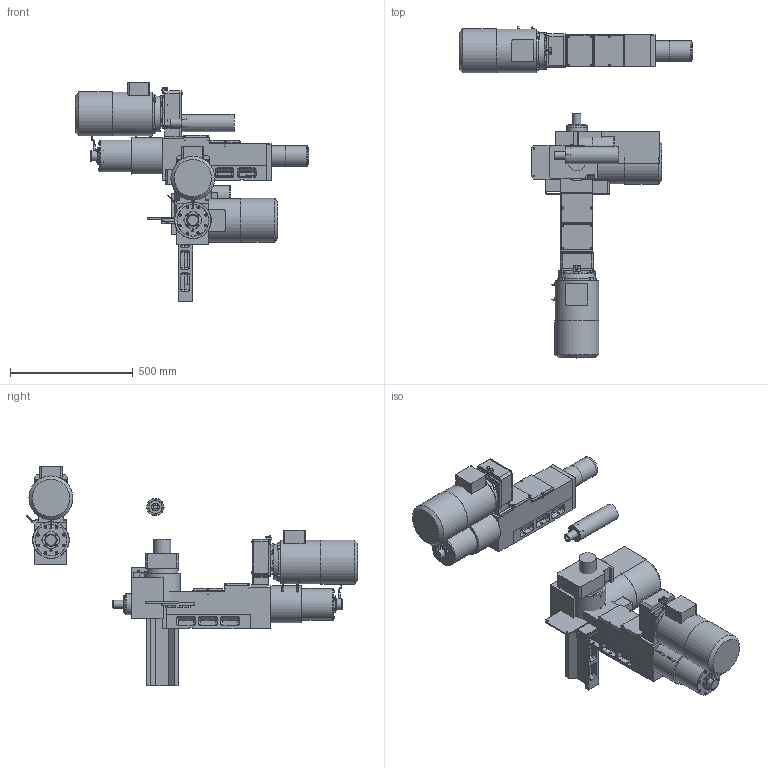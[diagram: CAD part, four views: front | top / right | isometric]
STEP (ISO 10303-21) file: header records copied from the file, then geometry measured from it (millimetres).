
FILE_DESCRIPTION( ( 'STEP AP203' ), '1' );
FILE_NAME( 'C:/Documents and Settings/Saverio/Desktop/disegni ironcad/unità serie 2/MC216A (ex MC220A)/MC 216 A_A04_P.stp', '2014-03-25T11:08:04', ( ' ' ), ( ' ' ), 'XStep 1.0', ' ', ' ' );
FILE_SCHEMA( ( 'CONFIG_CONTROL_DESIGN' ) );
Length unit declared in the file: metre
Products named in the file (54): Assem1; Assem2; Assem3; 1; 2; 3; 4; 5; 6; 7; 8; 9; 10; 11; 12; 13; 14; 15; 16; 17; 18; 19; 20; 21; 22; 23; 24; 25; 26; 27; 28; 29; 30; 31; 32; 33; 34; 35; 36; 37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
Bounding box: 950 x 1350.52 x 894.21 mm (x, y, z)
Volume: 61091269.9 mm3; surface area: 4652374.5 mm2
Topology: 153 solids, 156 shells, 3438 faces, 7752 edges, 4746 vertices
Faces by surface type: plane 1824, cylinder 897, cone 462, bspline 150, sphere 60, torus 45
Full cylindrical faces by diameter (mm): 3 x3, 5 x66, 5.5 x57, 6 x24, 6.5 x42, 6.637 x15, 6.647 x12, 6.75 x18, 7 x3, 8 x9, 8.385 x3, 8.5 x48, 8.75 x18, 8.758 x3, 16 x3, 18 x3, 24 x3, 31.2 x3, 32 x6, 44 x3, 44.2 x3, 50 x6, 50.5 x3, 52 x3, 53 x3, 54 x6, 70 x9, 74 x3, 76 x3, 80 x6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
Entity records: 35756 total; most frequent: CARTESIAN_POINT 9485, DIRECTION 4977, ORIENTED_EDGE 4348, EDGE_CURVE 2174, AXIS2_PLACEMENT_3D 1874, EDGE_LOOP 1631, VERTEX_POINT 1515, FACE_OUTER_BOUND 1310
